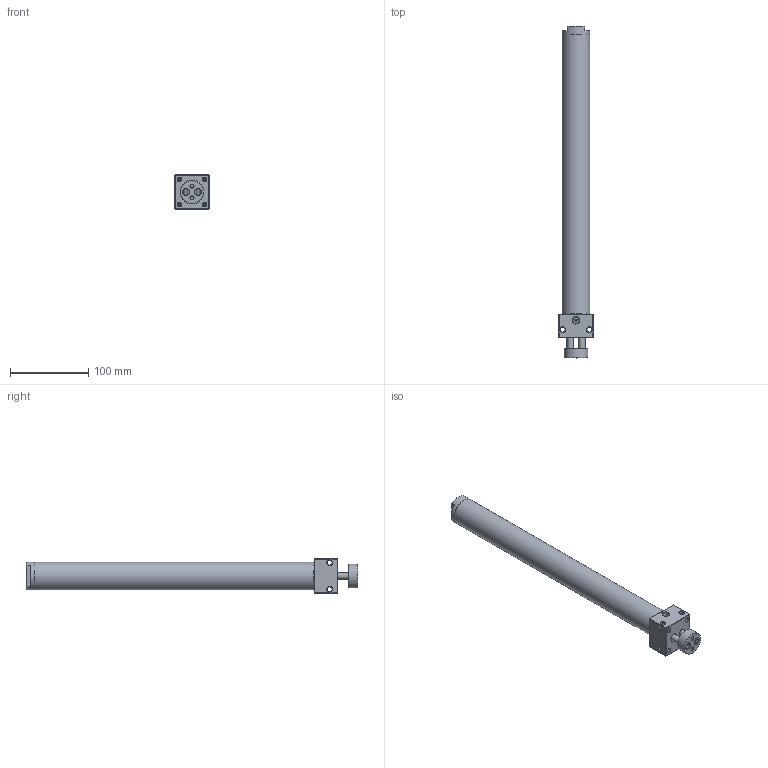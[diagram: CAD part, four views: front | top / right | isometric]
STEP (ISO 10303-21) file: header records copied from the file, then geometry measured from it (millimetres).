
FILE_DESCRIPTION((''),'2;1');
FILE_NAME('I:\3D電子目錄\氣缸\DBT\DBT\DBT30\DBT30x300.stp','2007-10-08T08:58:54',('Administrator'),(''),'Autodesk Inventor 2008','Autodesk Inventor 2008','');
FILE_SCHEMA(('AUTOMOTIVE_DESIGN { 1 0 10303 214 1 1 1 1 }'));
Length unit declared in the file: millimetre
Products named in the file (1): DBT30x300
Bounding box: 44 x 423 x 44 mm (x, y, z)
Volume: 171419.1 mm3; surface area: 99727.9 mm2
Topology: 5 solids, 5 shells, 167 faces, 388 edges, 234 vertices
Faces by surface type: plane 56, bspline 53, cone 37, cylinder 21
Full cylindrical faces by diameter (mm): 4.3 x1, 5 x1, 8 x3, 8.5 x1, 10 x1, 11 x1, 18 x1, 28.8 x2, 30 x2, 30.8 x2, 32 x2, 32.2 x2, 35 x2
Entity records: 5064 total; most frequent: CARTESIAN_POINT 1888, DIRECTION 604, ORIENTED_EDGE 538, EDGE_LOOP 298, EDGE_CURVE 269, AXIS2_PLACEMENT_3D 256, VERTEX_POINT 207, FACE_OUTER_BOUND 167
